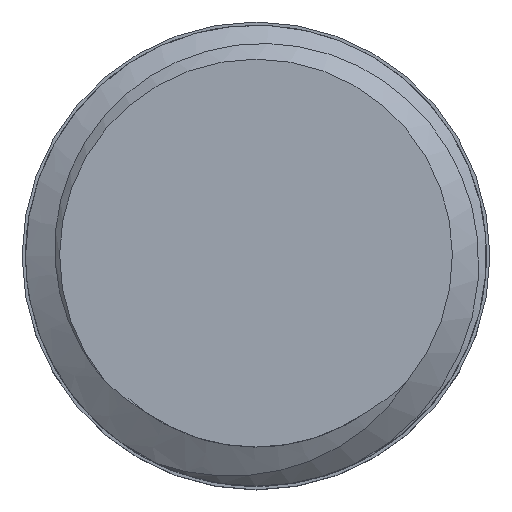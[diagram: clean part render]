
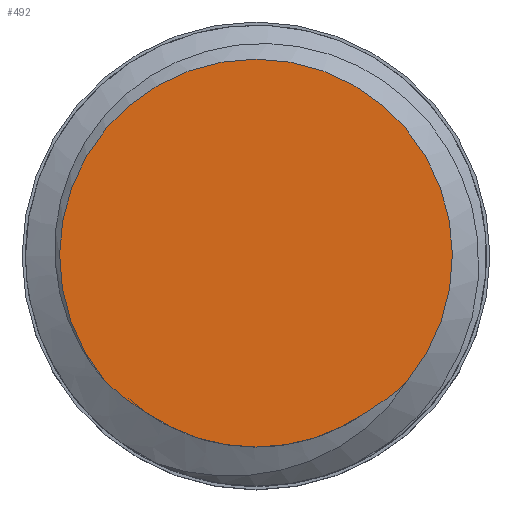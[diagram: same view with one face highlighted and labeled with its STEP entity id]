
A CAD part, top view. The second image highlights one B-rep face of the part: STEP entity #492.
In plain terms, the highlighted planar face has unit normal (0, 0, 1).
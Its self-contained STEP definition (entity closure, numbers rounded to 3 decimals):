
#36=PLANE('',#542);
#65=FACE_OUTER_BOUND('',#96,.T.);
#96=EDGE_LOOP('',(#451,#452,#453,#454));
#97=CIRCLE('',#508,5.617);
#103=CIRCLE('',#536,5.761);
#123=B_SPLINE_CURVE_WITH_KNOTS('',3,(#1704,#1705,#1706,#1707,#1708,#1709,
#1710,#1711,#1712,#1713,#1714,#1715,#1716),.UNSPECIFIED.,.F.,.F.,(4,3,3,
3,4),(1.145,1.194,1.245,1.292,
1.295),.UNSPECIFIED.);
#125=B_SPLINE_CURVE_WITH_KNOTS('',3,(#1908,#1909,#1910,#1911,#1912,#1913,
#1914,#1915,#1916,#1917,#1918,#1919,#1920),.UNSPECIFIED.,.F.,.F.,(4,3,3,
3,4),(0.,0.049,0.064,0.112,0.15),
 .UNSPECIFIED.);
#206=VERTEX_POINT('',#660);
#207=VERTEX_POINT('',#669);
#243=VERTEX_POINT('',#1035);
#244=VERTEX_POINT('',#1307);
#250=EDGE_CURVE('',#207,#206,#97,.T.);
#305=EDGE_CURVE('',#243,#244,#103,.T.);
#311=EDGE_CURVE('',#243,#207,#123,.T.);
#313=EDGE_CURVE('',#206,#244,#125,.T.);
#451=ORIENTED_EDGE('',*,*,#305,.F.);
#452=ORIENTED_EDGE('',*,*,#311,.T.);
#453=ORIENTED_EDGE('',*,*,#250,.T.);
#454=ORIENTED_EDGE('',*,*,#313,.T.);
#492=ADVANCED_FACE('',(#65),#36,.T.);
#508=AXIS2_PLACEMENT_3D('',#670,#548,#549);
#536=AXIS2_PLACEMENT_3D('',#1308,#641,#642);
#542=AXIS2_PLACEMENT_3D('',#2045,#653,#654);
#548=DIRECTION('center_axis',(0.,0.,1.));
#549=DIRECTION('ref_axis',(1.,0.,0.));
#641=DIRECTION('center_axis',(0.,0.,-1.));
#642=DIRECTION('ref_axis',(1.,0.,0.));
#653=DIRECTION('center_axis',(0.,0.,1.));
#654=DIRECTION('ref_axis',(1.,0.,0.));
#660=CARTESIAN_POINT('',(3.261,-4.573,6.));
#669=CARTESIAN_POINT('',(-3.261,-4.573,6.));
#670=CARTESIAN_POINT('Origin',(0.,0.,6.));
#1035=CARTESIAN_POINT('',(-4.443,-3.668,6.));
#1307=CARTESIAN_POINT('',(4.443,-3.668,6.));
#1308=CARTESIAN_POINT('Origin',(0.,0.,6.));
#1704=CARTESIAN_POINT('Ctrl Pts',(-4.442,-3.667,6.));
#1705=CARTESIAN_POINT('Ctrl Pts',(-4.327,-3.782,6.));
#1706=CARTESIAN_POINT('Ctrl Pts',(-4.208,-3.892,6.));
#1707=CARTESIAN_POINT('Ctrl Pts',(-4.084,-3.996,6.));
#1708=CARTESIAN_POINT('Ctrl Pts',(-3.956,-4.104,6.));
#1709=CARTESIAN_POINT('Ctrl Pts',(-3.823,-4.207,6.));
#1710=CARTESIAN_POINT('Ctrl Pts',(-3.686,-4.303,6.));
#1711=CARTESIAN_POINT('Ctrl Pts',(-3.557,-4.394,6.));
#1712=CARTESIAN_POINT('Ctrl Pts',(-3.424,-4.479,6.));
#1713=CARTESIAN_POINT('Ctrl Pts',(-3.287,-4.558,6.));
#1714=CARTESIAN_POINT('Ctrl Pts',(-3.279,-4.563,6.));
#1715=CARTESIAN_POINT('Ctrl Pts',(-3.27,-4.568,6.));
#1716=CARTESIAN_POINT('Ctrl Pts',(-3.261,-4.573,6.));
#1908=CARTESIAN_POINT('Ctrl Pts',(3.261,-4.573,6.));
#1909=CARTESIAN_POINT('Ctrl Pts',(3.402,-4.493,6.));
#1910=CARTESIAN_POINT('Ctrl Pts',(3.538,-4.406,6.));
#1911=CARTESIAN_POINT('Ctrl Pts',(3.671,-4.314,6.));
#1912=CARTESIAN_POINT('Ctrl Pts',(3.712,-4.285,6.));
#1913=CARTESIAN_POINT('Ctrl Pts',(3.753,-4.256,6.));
#1914=CARTESIAN_POINT('Ctrl Pts',(3.794,-4.226,6.));
#1915=CARTESIAN_POINT('Ctrl Pts',(3.923,-4.131,6.));
#1916=CARTESIAN_POINT('Ctrl Pts',(4.048,-4.031,6.));
#1917=CARTESIAN_POINT('Ctrl Pts',(4.168,-3.925,6.));
#1918=CARTESIAN_POINT('Ctrl Pts',(4.262,-3.842,6.));
#1919=CARTESIAN_POINT('Ctrl Pts',(4.354,-3.757,6.));
#1920=CARTESIAN_POINT('Ctrl Pts',(4.442,-3.668,6.));
#2045=CARTESIAN_POINT('Origin',(0.,0.,6.));
